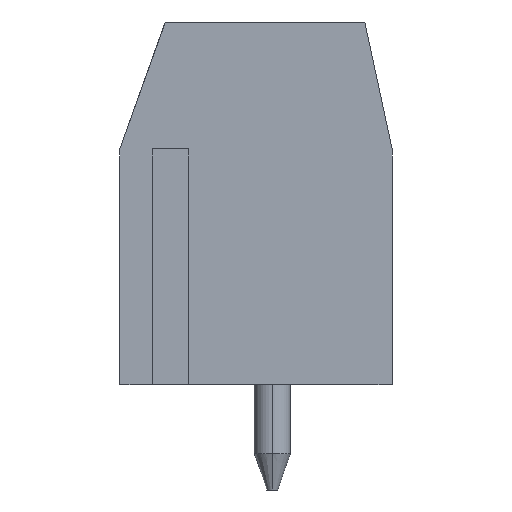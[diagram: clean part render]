
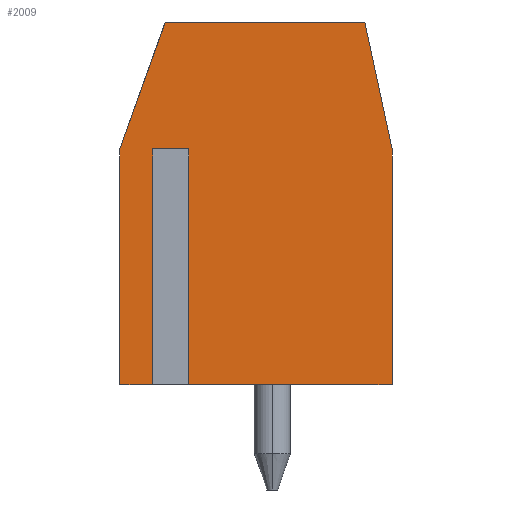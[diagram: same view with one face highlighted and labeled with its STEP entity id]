
A CAD part, left-side view. The second image highlights one B-rep face of the part: STEP entity #2009.
In plain terms, the highlighted planar face has unit normal (-1, 0, 0).
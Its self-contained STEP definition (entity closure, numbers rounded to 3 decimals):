
#27 = PLANE ( 'NONE',  #1687 ) ;
#51 = LINE ( 'NONE', #2533, #2473 ) ;
#69 = VECTOR ( 'NONE', #5684, 1000. ) ;
#108 = ORIENTED_EDGE ( 'NONE', *, *, #323, .F. ) ;
#126 = EDGE_LOOP ( 'NONE', ( #108, #434, #505, #907, #1974, #667, #3167, #2785, #6499, #1892 ) ) ;
#296 = VECTOR ( 'NONE', #741, 1000. ) ;
#323 = EDGE_CURVE ( 'NONE', #5659, #3456, #409, .T. ) ;
#409 = LINE ( 'NONE', #2378, #2506 ) ;
#434 = ORIENTED_EDGE ( 'NONE', *, *, #873, .F. ) ;
#505 = ORIENTED_EDGE ( 'NONE', *, *, #5746, .T. ) ;
#667 = ORIENTED_EDGE ( 'NONE', *, *, #5621, .F. ) ;
#741 = DIRECTION ( 'NONE',  ( 0., 0.21, 0.978 ) ) ;
#873 = EDGE_CURVE ( 'NONE', #2206, #5659, #1149, .T. ) ;
#907 = ORIENTED_EDGE ( 'NONE', *, *, #3372, .T. ) ;
#990 = LINE ( 'NONE', #1151, #2387 ) ;
#1000 = DIRECTION ( 'NONE',  ( -1., 0., 0. ) ) ;
#1026 = DIRECTION ( 'NONE',  ( 0., 0., 1. ) ) ;
#1100 = CARTESIAN_POINT ( 'NONE',  ( -5., 0., 0. ) ) ;
#1149 = LINE ( 'NONE', #5853, #6351 ) ;
#1151 = CARTESIAN_POINT ( 'NONE',  ( -5., 2.725, 0. ) ) ;
#1313 = DIRECTION ( 'NONE',  ( 0., -1., 0. ) ) ;
#1329 = VERTEX_POINT ( 'NONE', #2801 ) ;
#1389 = CARTESIAN_POINT ( 'NONE',  ( -5., 1.975, 1.5 ) ) ;
#1592 = LINE ( 'NONE', #6166, #69 ) ;
#1660 = LINE ( 'NONE', #1761, #296 ) ;
#1687 = AXIS2_PLACEMENT_3D ( 'NONE', #1100, #1000, #1026 ) ;
#1727 = LINE ( 'NONE', #2256, #5587 ) ;
#1761 = CARTESIAN_POINT ( 'NONE',  ( -5., -3.75, 1.5 ) ) ;
#1892 = ORIENTED_EDGE ( 'NONE', *, *, #5794, .T. ) ;
#1954 = VECTOR ( 'NONE', #2570, 1000. ) ;
#1974 = ORIENTED_EDGE ( 'NONE', *, *, #4912, .T. ) ;
#2001 = CARTESIAN_POINT ( 'NONE',  ( -5., 2.725, 1.5 ) ) ;
#2009 = ADVANCED_FACE ( 'NONE', ( #3418 ), #27, .T. ) ;
#2139 = VECTOR ( 'NONE', #1313, 1000. ) ;
#2193 = DIRECTION ( 'NONE',  ( 0., 0., 1. ) ) ;
#2206 = VERTEX_POINT ( 'NONE', #4519 ) ;
#2256 = CARTESIAN_POINT ( 'NONE',  ( -5., 2.5, 5. ) ) ;
#2378 = CARTESIAN_POINT ( 'NONE',  ( -5., 3.75, 5. ) ) ;
#2387 = VECTOR ( 'NONE', #2193, 1000. ) ;
#2468 = VERTEX_POINT ( 'NONE', #4459 ) ;
#2473 = VECTOR ( 'NONE', #4592, 1000. ) ;
#2506 = VECTOR ( 'NONE', #4350, 1000. ) ;
#2533 = CARTESIAN_POINT ( 'NONE',  ( -5., 3.75, -5. ) ) ;
#2552 = VERTEX_POINT ( 'NONE', #2001 ) ;
#2570 = DIRECTION ( 'NONE',  ( 0., -1., 0. ) ) ;
#2720 = DIRECTION ( 'NONE',  ( 0., 1., 0. ) ) ;
#2783 = CARTESIAN_POINT ( 'NONE',  ( -5., -3.75, -5. ) ) ;
#2785 = ORIENTED_EDGE ( 'NONE', *, *, #5383, .T. ) ;
#2801 = CARTESIAN_POINT ( 'NONE',  ( -5., -3.75, 1.5 ) ) ;
#3075 = VERTEX_POINT ( 'NONE', #3703 ) ;
#3167 = ORIENTED_EDGE ( 'NONE', *, *, #4495, .F. ) ;
#3372 = EDGE_CURVE ( 'NONE', #2552, #3705, #4629, .T. ) ;
#3418 = FACE_OUTER_BOUND ( 'NONE', #126, .T. ) ;
#3456 = VERTEX_POINT ( 'NONE', #3582 ) ;
#3582 = CARTESIAN_POINT ( 'NONE',  ( -5., 3.75, 1.5 ) ) ;
#3617 = CARTESIAN_POINT ( 'NONE',  ( -5., 3.75, -5. ) ) ;
#3703 = CARTESIAN_POINT ( 'NONE',  ( -5., -3., 5. ) ) ;
#3705 = VERTEX_POINT ( 'NONE', #1389 ) ;
#3826 = DIRECTION ( 'NONE',  ( 0., 0., -1. ) ) ;
#3846 = VECTOR ( 'NONE', #3826, 1000. ) ;
#3854 = CARTESIAN_POINT ( 'NONE',  ( -5., -3.75, 5. ) ) ;
#4243 = VERTEX_POINT ( 'NONE', #2783 ) ;
#4350 = DIRECTION ( 'NONE',  ( 0., 0., 1. ) ) ;
#4459 = CARTESIAN_POINT ( 'NONE',  ( -5., 2.5, 5. ) ) ;
#4495 = EDGE_CURVE ( 'NONE', #1329, #4243, #5166, .T. ) ;
#4519 = CARTESIAN_POINT ( 'NONE',  ( -5., 2.725, -5. ) ) ;
#4592 = DIRECTION ( 'NONE',  ( 0., 1., 0. ) ) ;
#4629 = LINE ( 'NONE', #5551, #1954 ) ;
#4912 = EDGE_CURVE ( 'NONE', #3705, #6030, #1592, .T. ) ;
#5166 = LINE ( 'NONE', #6299, #3846 ) ;
#5383 = EDGE_CURVE ( 'NONE', #1329, #3075, #1660, .T. ) ;
#5551 = CARTESIAN_POINT ( 'NONE',  ( -5., 0., 1.5 ) ) ;
#5587 = VECTOR ( 'NONE', #5764, 1000. ) ;
#5621 = EDGE_CURVE ( 'NONE', #4243, #6030, #51, .T. ) ;
#5659 = VERTEX_POINT ( 'NONE', #3617 ) ;
#5684 = DIRECTION ( 'NONE',  ( 0., 0., -1. ) ) ;
#5746 = EDGE_CURVE ( 'NONE', #2206, #2552, #990, .T. ) ;
#5764 = DIRECTION ( 'NONE',  ( 0., 0.336, -0.942 ) ) ;
#5794 = EDGE_CURVE ( 'NONE', #2468, #3456, #1727, .T. ) ;
#5853 = CARTESIAN_POINT ( 'NONE',  ( -5., 3.75, -5. ) ) ;
#5912 = CARTESIAN_POINT ( 'NONE',  ( -5., 1.975, -5. ) ) ;
#5917 = EDGE_CURVE ( 'NONE', #2468, #3075, #6116, .T. ) ;
#6030 = VERTEX_POINT ( 'NONE', #5912 ) ;
#6116 = LINE ( 'NONE', #3854, #2139 ) ;
#6166 = CARTESIAN_POINT ( 'NONE',  ( -5., 1.975, 0. ) ) ;
#6299 = CARTESIAN_POINT ( 'NONE',  ( -5., -3.75, -5. ) ) ;
#6351 = VECTOR ( 'NONE', #2720, 1000. ) ;
#6499 = ORIENTED_EDGE ( 'NONE', *, *, #5917, .F. ) ;
